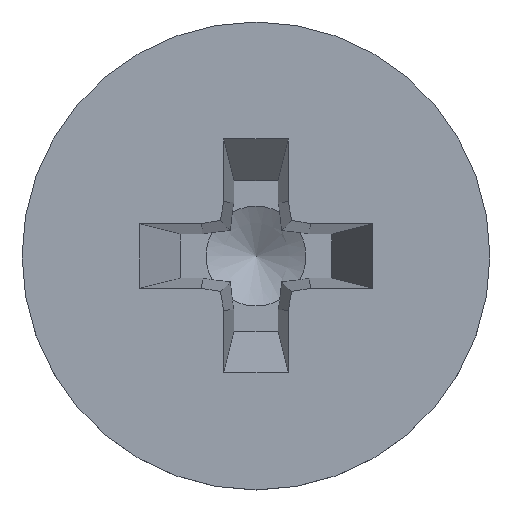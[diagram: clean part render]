
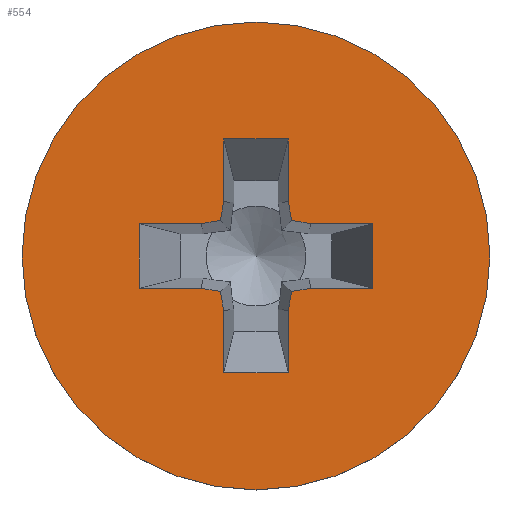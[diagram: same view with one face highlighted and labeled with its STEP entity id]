
A CAD part, top view. The second image highlights one B-rep face of the part: STEP entity #554.
In plain terms, the highlighted planar face has unit normal (0, 0, 1).
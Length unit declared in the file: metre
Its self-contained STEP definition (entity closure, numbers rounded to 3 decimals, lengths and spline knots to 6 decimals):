
#42=LINE('',#831,#102);
#43=LINE('',#834,#103);
#44=LINE('',#836,#104);
#45=LINE('',#838,#105);
#46=LINE('',#840,#106);
#47=LINE('',#842,#107);
#48=LINE('',#844,#108);
#49=LINE('',#846,#109);
#50=LINE('',#848,#110);
#51=LINE('',#850,#111);
#52=LINE('',#852,#112);
#53=LINE('',#854,#113);
#54=LINE('',#856,#114);
#55=LINE('',#858,#115);
#56=LINE('',#860,#116);
#57=LINE('',#862,#117);
#58=LINE('',#864,#118);
#59=LINE('',#866,#119);
#60=LINE('',#868,#120);
#61=LINE('',#870,#121);
#102=VECTOR('',#677,1.);
#103=VECTOR('',#678,1.);
#104=VECTOR('',#679,1.);
#105=VECTOR('',#680,1.);
#106=VECTOR('',#681,1.);
#107=VECTOR('',#682,1.);
#108=VECTOR('',#683,1.);
#109=VECTOR('',#684,1.);
#110=VECTOR('',#685,1.);
#111=VECTOR('',#686,1.);
#112=VECTOR('',#687,1.);
#113=VECTOR('',#688,1.);
#114=VECTOR('',#689,1.);
#115=VECTOR('',#690,1.);
#116=VECTOR('',#691,1.);
#117=VECTOR('',#692,1.);
#118=VECTOR('',#693,1.);
#119=VECTOR('',#694,1.);
#120=VECTOR('',#695,1.);
#121=VECTOR('',#696,1.);
#168=ORIENTED_EDGE('',*,*,#324,.T.);
#169=ORIENTED_EDGE('',*,*,#325,.T.);
#170=ORIENTED_EDGE('',*,*,#326,.F.);
#171=ORIENTED_EDGE('',*,*,#327,.T.);
#172=ORIENTED_EDGE('',*,*,#328,.T.);
#173=ORIENTED_EDGE('',*,*,#329,.F.);
#174=ORIENTED_EDGE('',*,*,#330,.T.);
#175=ORIENTED_EDGE('',*,*,#331,.F.);
#176=ORIENTED_EDGE('',*,*,#332,.T.);
#177=ORIENTED_EDGE('',*,*,#333,.T.);
#178=ORIENTED_EDGE('',*,*,#334,.F.);
#179=ORIENTED_EDGE('',*,*,#335,.T.);
#180=ORIENTED_EDGE('',*,*,#336,.F.);
#181=ORIENTED_EDGE('',*,*,#337,.F.);
#182=ORIENTED_EDGE('',*,*,#338,.F.);
#183=ORIENTED_EDGE('',*,*,#339,.T.);
#184=ORIENTED_EDGE('',*,*,#340,.T.);
#185=ORIENTED_EDGE('',*,*,#341,.F.);
#186=ORIENTED_EDGE('',*,*,#342,.F.);
#187=ORIENTED_EDGE('',*,*,#343,.F.);
#188=ORIENTED_EDGE('',*,*,#344,.F.);
#324=EDGE_CURVE('',#402,#403,#42,.F.);
#325=EDGE_CURVE('',#403,#404,#43,.F.);
#326=EDGE_CURVE('',#405,#404,#44,.T.);
#327=EDGE_CURVE('',#405,#406,#45,.F.);
#328=EDGE_CURVE('',#406,#407,#46,.F.);
#329=EDGE_CURVE('',#408,#407,#47,.T.);
#330=EDGE_CURVE('',#408,#409,#48,.F.);
#331=EDGE_CURVE('',#410,#409,#49,.T.);
#332=EDGE_CURVE('',#410,#411,#50,.F.);
#333=EDGE_CURVE('',#411,#412,#51,.F.);
#334=EDGE_CURVE('',#413,#412,#52,.T.);
#335=EDGE_CURVE('',#413,#414,#53,.F.);
#336=EDGE_CURVE('',#415,#414,#54,.T.);
#337=EDGE_CURVE('',#416,#415,#55,.T.);
#338=EDGE_CURVE('',#417,#416,#56,.T.);
#339=EDGE_CURVE('',#417,#418,#57,.F.);
#340=EDGE_CURVE('',#418,#419,#58,.F.);
#341=EDGE_CURVE('',#420,#419,#59,.T.);
#342=EDGE_CURVE('',#421,#420,#60,.T.);
#343=EDGE_CURVE('',#402,#421,#61,.T.);
#344=EDGE_CURVE('',#422,#422,#442,.T.);
#402=VERTEX_POINT('',#832);
#403=VERTEX_POINT('',#833);
#404=VERTEX_POINT('',#835);
#405=VERTEX_POINT('',#837);
#406=VERTEX_POINT('',#839);
#407=VERTEX_POINT('',#841);
#408=VERTEX_POINT('',#843);
#409=VERTEX_POINT('',#845);
#410=VERTEX_POINT('',#847);
#411=VERTEX_POINT('',#849);
#412=VERTEX_POINT('',#851);
#413=VERTEX_POINT('',#853);
#414=VERTEX_POINT('',#855);
#415=VERTEX_POINT('',#857);
#416=VERTEX_POINT('',#859);
#417=VERTEX_POINT('',#861);
#418=VERTEX_POINT('',#863);
#419=VERTEX_POINT('',#865);
#420=VERTEX_POINT('',#867);
#421=VERTEX_POINT('',#869);
#422=VERTEX_POINT('',#872);
#442=CIRCLE('',#606,0.0019);
#452=EDGE_LOOP('',(#168,#169,#170,#171,#172,#173,#174,#175,#176,#177,#178,
#179,#180,#181,#182,#183,#184,#185,#186,#187));
#453=EDGE_LOOP('',(#188));
#490=FACE_BOUND('',#452,.T.);
#491=FACE_BOUND('',#453,.T.);
#527=PLANE('',#605);
#554=ADVANCED_FACE('',(#490,#491),#527,.F.);
#605=AXIS2_PLACEMENT_3D('',#830,#675,#676);
#606=AXIS2_PLACEMENT_3D('',#871,#697,#698);
#675=DIRECTION('',(0.,0.,-1.));
#676=DIRECTION('',(-1.,0.,0.));
#677=DIRECTION('',(0.,-1.,0.));
#678=DIRECTION('',(0.161,-0.987,0.));
#679=DIRECTION('',(0.987,-0.161,0.));
#680=DIRECTION('',(1.,0.,0.));
#681=DIRECTION('',(0.,-1.,0.));
#682=DIRECTION('',(-1.,0.,0.));
#683=DIRECTION('',(-0.987,-0.161,0.));
#684=DIRECTION('',(-0.161,-0.987,0.));
#685=DIRECTION('',(0.,-1.,0.));
#686=DIRECTION('',(-1.,0.,0.));
#687=DIRECTION('',(0.,1.,0.));
#688=DIRECTION('',(-0.161,0.987,0.));
#689=DIRECTION('',(-0.987,0.161,0.));
#690=DIRECTION('',(-1.,0.,0.));
#691=DIRECTION('',(0.,1.,0.));
#692=DIRECTION('',(1.,0.,0.));
#693=DIRECTION('',(0.987,0.161,0.));
#694=DIRECTION('',(0.161,0.987,0.));
#695=DIRECTION('',(0.,1.,0.));
#696=DIRECTION('',(1.,0.,0.));
#697=DIRECTION('',(0.,0.,-1.));
#698=DIRECTION('',(-1.,0.,0.));
#830=CARTESIAN_POINT('',(-0.00095,0.,0.));
#831=CARTESIAN_POINT('',(-0.000263,0.,0.));
#832=CARTESIAN_POINT('',(-0.000263,-0.00095,0.));
#833=CARTESIAN_POINT('',(-0.000263,-0.000441,0.));
#834=CARTESIAN_POINT('',(-0.000351,0.000098,0.));
#835=CARTESIAN_POINT('',(-0.000288,-0.000288,0.));
#836=CARTESIAN_POINT('',(-0.000979,-0.000176,0.));
#837=CARTESIAN_POINT('',(-0.000441,-0.000263,0.));
#838=CARTESIAN_POINT('',(-0.00095,-0.000263,0.));
#839=CARTESIAN_POINT('',(-0.00095,-0.000263,0.));
#840=CARTESIAN_POINT('',(-0.00095,0.,0.));
#841=CARTESIAN_POINT('',(-0.00095,0.000263,0.));
#842=CARTESIAN_POINT('',(-0.00095,0.000263,0.));
#843=CARTESIAN_POINT('',(-0.000441,0.000263,0.));
#844=CARTESIAN_POINT('',(-0.000979,0.000176,0.));
#845=CARTESIAN_POINT('',(-0.000288,0.000288,0.));
#846=CARTESIAN_POINT('',(-0.000351,-0.000098,0.));
#847=CARTESIAN_POINT('',(-0.000263,0.000441,0.));
#848=CARTESIAN_POINT('',(-0.000263,0.,0.));
#849=CARTESIAN_POINT('',(-0.000263,0.00095,0.));
#850=CARTESIAN_POINT('',(-0.00095,0.00095,0.));
#851=CARTESIAN_POINT('',(0.000263,0.00095,0.));
#852=CARTESIAN_POINT('',(0.000263,0.,0.));
#853=CARTESIAN_POINT('',(0.000263,0.000441,0.));
#854=CARTESIAN_POINT('',(0.000302,0.000204,0.));
#855=CARTESIAN_POINT('',(0.000288,0.000288,0.));
#856=CARTESIAN_POINT('',(-0.000872,0.000478,0.));
#857=CARTESIAN_POINT('',(0.000441,0.000263,0.));
#858=CARTESIAN_POINT('',(-0.00095,0.000263,0.));
#859=CARTESIAN_POINT('',(0.00095,0.000263,0.));
#860=CARTESIAN_POINT('',(0.00095,0.,0.));
#861=CARTESIAN_POINT('',(0.00095,-0.000263,0.));
#862=CARTESIAN_POINT('',(-0.00095,-0.000263,0.));
#863=CARTESIAN_POINT('',(0.000441,-0.000263,0.));
#864=CARTESIAN_POINT('',(-0.000872,-0.000478,0.));
#865=CARTESIAN_POINT('',(0.000288,-0.000288,0.));
#866=CARTESIAN_POINT('',(0.000302,-0.000204,0.));
#867=CARTESIAN_POINT('',(0.000263,-0.000441,0.));
#868=CARTESIAN_POINT('',(0.000263,0.,0.));
#869=CARTESIAN_POINT('',(0.000263,-0.00095,0.));
#870=CARTESIAN_POINT('',(-0.00095,-0.00095,0.));
#871=CARTESIAN_POINT('',(0.,0.,0.));
#872=CARTESIAN_POINT('',(-0.0019,0.,0.));
